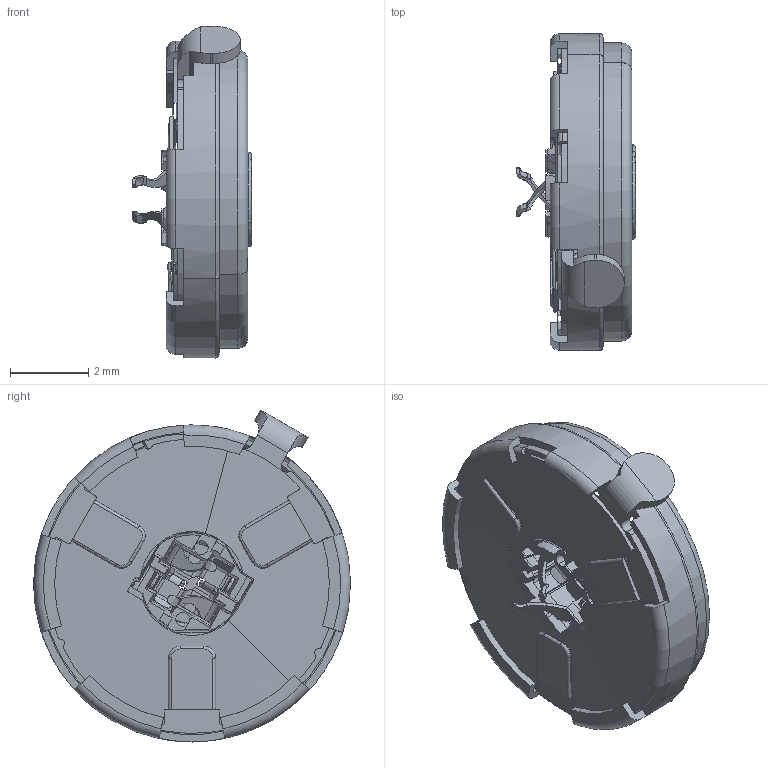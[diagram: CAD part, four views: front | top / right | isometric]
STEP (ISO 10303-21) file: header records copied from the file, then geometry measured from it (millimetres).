
FILE_DESCRIPTION((''),'2;1');
FILE_NAME('RECEIVER-8X2-PHILIPS_PRT','2008-06-30T',('GRA'),(''),'PRO/ENGINEER BY PARAMETRIC TECHNOLOGY CORPORATION, 2006170','PRO/ENGINEER BY PARAMETRIC TECHNOLOGY CORPORATION, 2006170','');
FILE_SCHEMA(('CONFIG_CONTROL_DESIGN'));
Length unit declared in the file: millimetre
Products named in the file (1): RECEIVER-8X2-PHILIPS_PRT
Bounding box: 3.04 x 8.08 x 8.46 mm (x, y, z)
Surface area: 293.7 mm2 (no closed solid volume)
Topology: 0 solids, 8 shells, 394 faces, 1576 edges, 1160 vertices
Faces by surface type: plane 193, cylinder 149, torus 23, bspline 16, cone 13
Entity records: 19369 total; most frequent: CARTESIAN_POINT 6927, ORIENTED_EDGE 2496, DIRECTION 2375, EDGE_CURVE 1576, VERTEX_POINT 1160, AXIS2_PLACEMENT_3D 805, VECTOR 765, LINE 765
